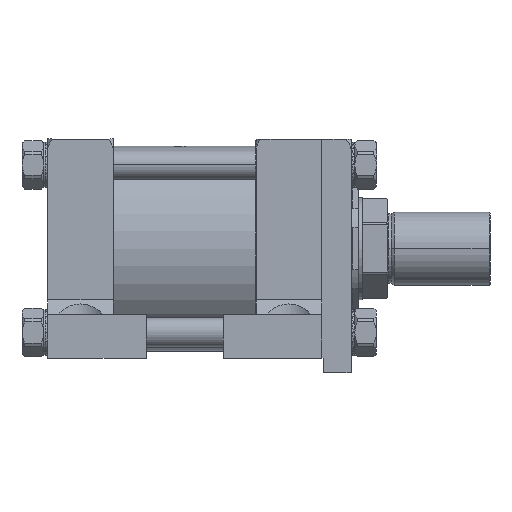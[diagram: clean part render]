
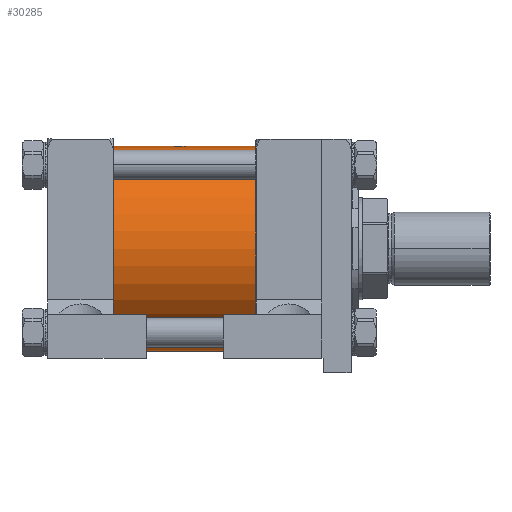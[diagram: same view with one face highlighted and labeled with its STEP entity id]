
A CAD part, front view. The second image highlights one B-rep face of the part: STEP entity #30285.
In plain terms, the highlighted cylindrical face has radius 88.9 mm (diameter 177.8 mm), a partial arc.
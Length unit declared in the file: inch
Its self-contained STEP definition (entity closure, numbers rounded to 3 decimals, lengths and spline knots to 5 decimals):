
#730 = CARTESIAN_POINT ( 'NONE',  ( -9.625, 0., -3.5 ) ) ;
#2025 = ORIENTED_EDGE ( 'NONE', *, *, #48635, .F. ) ;
#4901 = CIRCLE ( 'NONE', #32940, 3.5 ) ;
#8992 = VERTEX_POINT ( 'NONE', #730 ) ;
#12164 = DIRECTION ( 'NONE',  ( 1., 0., 0. ) ) ;
#12930 = CARTESIAN_POINT ( 'NONE',  ( -9.625, 0., -3.5 ) ) ;
#13082 = VERTEX_POINT ( 'NONE', #50986 ) ;
#13457 = VECTOR ( 'NONE', #13862, 39.37008 ) ;
#13862 = DIRECTION ( 'NONE',  ( 1., 0., 0. ) ) ;
#14179 = VERTEX_POINT ( 'NONE', #31714 ) ;
#16760 = VECTOR ( 'NONE', #41008, 39.37008 ) ;
#16987 = EDGE_CURVE ( 'NONE', #13082, #38038, #4901, .T. ) ;
#18582 = CIRCLE ( 'NONE', #27554, 3.5 ) ;
#19889 = CARTESIAN_POINT ( 'NONE',  ( -4.25, 0., -3.5 ) ) ;
#21450 = ORIENTED_EDGE ( 'NONE', *, *, #41765, .T. ) ;
#22104 = CYLINDRICAL_SURFACE ( 'NONE', #37091, 3.5 ) ;
#22258 = CARTESIAN_POINT ( 'NONE',  ( -9.625, 0., 3.5 ) ) ;
#25796 = ORIENTED_EDGE ( 'NONE', *, *, #52160, .T. ) ;
#26576 = DIRECTION ( 'NONE',  ( 0., 1., 0. ) ) ;
#27554 = AXIS2_PLACEMENT_3D ( 'NONE', #42201, #12164, #26576 ) ;
#27579 = LINE ( 'NONE', #22258, #16760 ) ;
#30285 = ADVANCED_FACE ( 'NONE', ( #52134 ), #22104, .T. ) ;
#31714 = CARTESIAN_POINT ( 'NONE',  ( -9.625, 0., 3.5 ) ) ;
#32940 = AXIS2_PLACEMENT_3D ( 'NONE', #44868, #45480, #40138 ) ;
#37091 = AXIS2_PLACEMENT_3D ( 'NONE', #41156, #37751, #46828 ) ;
#37751 = DIRECTION ( 'NONE',  ( 1., 0., 0. ) ) ;
#38038 = VERTEX_POINT ( 'NONE', #19889 ) ;
#40138 = DIRECTION ( 'NONE',  ( 0., 1., 0. ) ) ;
#41008 = DIRECTION ( 'NONE',  ( 1., 0., 0. ) ) ;
#41156 = CARTESIAN_POINT ( 'NONE',  ( -9.625, 0., 0. ) ) ;
#41765 = EDGE_CURVE ( 'NONE', #14179, #8992, #18582, .T. ) ;
#42201 = CARTESIAN_POINT ( 'NONE',  ( -9.625, 0., 0. ) ) ;
#44868 = CARTESIAN_POINT ( 'NONE',  ( -4.25, 0., 0. ) ) ;
#45480 = DIRECTION ( 'NONE',  ( 1., 0., 0. ) ) ;
#46828 = DIRECTION ( 'NONE',  ( 0., 0., -1. ) ) ;
#47415 = ORIENTED_EDGE ( 'NONE', *, *, #16987, .F. ) ;
#48635 = EDGE_CURVE ( 'NONE', #14179, #13082, #27579, .T. ) ;
#50986 = CARTESIAN_POINT ( 'NONE',  ( -4.25, 0., 3.5 ) ) ;
#52134 = FACE_OUTER_BOUND ( 'NONE', #52325, .T. ) ;
#52160 = EDGE_CURVE ( 'NONE', #8992, #38038, #61761, .T. ) ;
#52325 = EDGE_LOOP ( 'NONE', ( #2025, #21450, #25796, #47415 ) ) ;
#61761 = LINE ( 'NONE', #12930, #13457 ) ;
